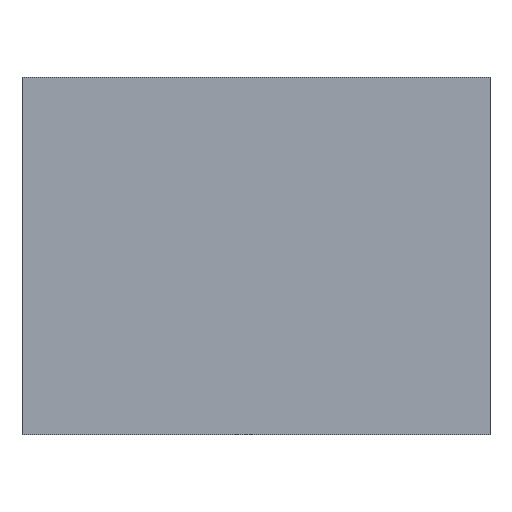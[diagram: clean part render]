
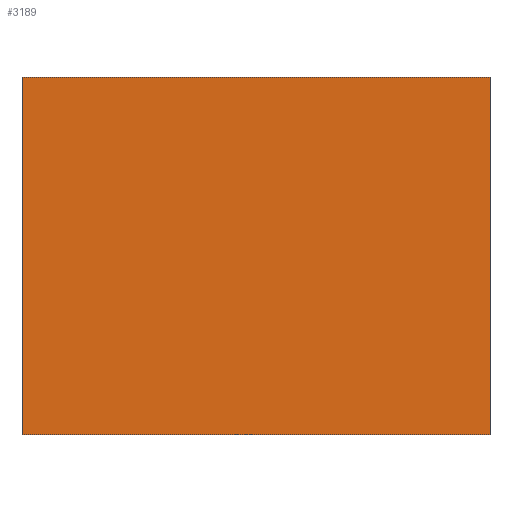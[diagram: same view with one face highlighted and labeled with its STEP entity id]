
A CAD part, front view. The second image highlights one B-rep face of the part: STEP entity #3189.
In plain terms, the highlighted planar face has unit normal (0, -1, 0).
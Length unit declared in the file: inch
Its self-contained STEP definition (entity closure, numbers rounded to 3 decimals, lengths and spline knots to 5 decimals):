
#119 = AXIS2_PLACEMENT_3D ( 'NONE', #5622, #1461, #807 ) ;
#324 = EDGE_CURVE ( 'NONE', #551, #3314, #6553, .T. ) ;
#459 = CARTESIAN_POINT ( 'NONE',  ( -14.88415, -12.75, 11.38415 ) ) ;
#551 = VERTEX_POINT ( 'NONE', #6706 ) ;
#632 = VECTOR ( 'NONE', #4194, 39.37008 ) ;
#698 = ORIENTED_EDGE ( 'NONE', *, *, #3950, .T. ) ;
#727 = VECTOR ( 'NONE', #4010, 39.37008 ) ;
#807 = DIRECTION ( 'NONE',  ( 0., 0., 1. ) ) ;
#841 = CARTESIAN_POINT ( 'NONE',  ( -14.88415, -12.75, -11.38415 ) ) ;
#914 = FACE_OUTER_BOUND ( 'NONE', #5694, .T. ) ;
#1461 = DIRECTION ( 'NONE',  ( 0., 1., 0. ) ) ;
#1514 = ORIENTED_EDGE ( 'NONE', *, *, #3580, .T. ) ;
#1607 = ORIENTED_EDGE ( 'NONE', *, *, #2587, .T. ) ;
#2517 = DIRECTION ( 'NONE',  ( 0., 0., 1. ) ) ;
#2587 = EDGE_CURVE ( 'NONE', #3314, #3433, #6903, .T. ) ;
#2764 = ORIENTED_EDGE ( 'NONE', *, *, #324, .T. ) ;
#2886 = CARTESIAN_POINT ( 'NONE',  ( 14.88415, -12.75, -11.38415 ) ) ;
#3189 = ADVANCED_FACE ( 'NONE', ( #914 ), #7271, .F. ) ;
#3314 = VERTEX_POINT ( 'NONE', #4290 ) ;
#3433 = VERTEX_POINT ( 'NONE', #6753 ) ;
#3580 = EDGE_CURVE ( 'NONE', #4716, #551, #4107, .T. ) ;
#3950 = EDGE_CURVE ( 'NONE', #3433, #4716, #5808, .T. ) ;
#4001 = VECTOR ( 'NONE', #2517, 39.37008 ) ;
#4010 = DIRECTION ( 'NONE',  ( 1., 0., 0. ) ) ;
#4107 = LINE ( 'NONE', #459, #4491 ) ;
#4194 = DIRECTION ( 'NONE',  ( 0., 0., -1. ) ) ;
#4290 = CARTESIAN_POINT ( 'NONE',  ( -14.88415, -12.75, -11.38415 ) ) ;
#4491 = VECTOR ( 'NONE', #6246, 39.37008 ) ;
#4716 = VERTEX_POINT ( 'NONE', #6559 ) ;
#5622 = CARTESIAN_POINT ( 'NONE',  ( -14.38415, -12.75, 10.88415 ) ) ;
#5694 = EDGE_LOOP ( 'NONE', ( #2764, #1607, #698, #1514 ) ) ;
#5808 = LINE ( 'NONE', #2886, #4001 ) ;
#6246 = DIRECTION ( 'NONE',  ( -1., 0., 0. ) ) ;
#6440 = CARTESIAN_POINT ( 'NONE',  ( -14.88415, -12.75, -11.38415 ) ) ;
#6553 = LINE ( 'NONE', #841, #632 ) ;
#6559 = CARTESIAN_POINT ( 'NONE',  ( 14.88415, -12.75, 11.38415 ) ) ;
#6706 = CARTESIAN_POINT ( 'NONE',  ( -14.88415, -12.75, 11.38415 ) ) ;
#6753 = CARTESIAN_POINT ( 'NONE',  ( 14.88415, -12.75, -11.38415 ) ) ;
#6903 = LINE ( 'NONE', #6440, #727 ) ;
#7271 = PLANE ( 'NONE',  #119 ) ;
